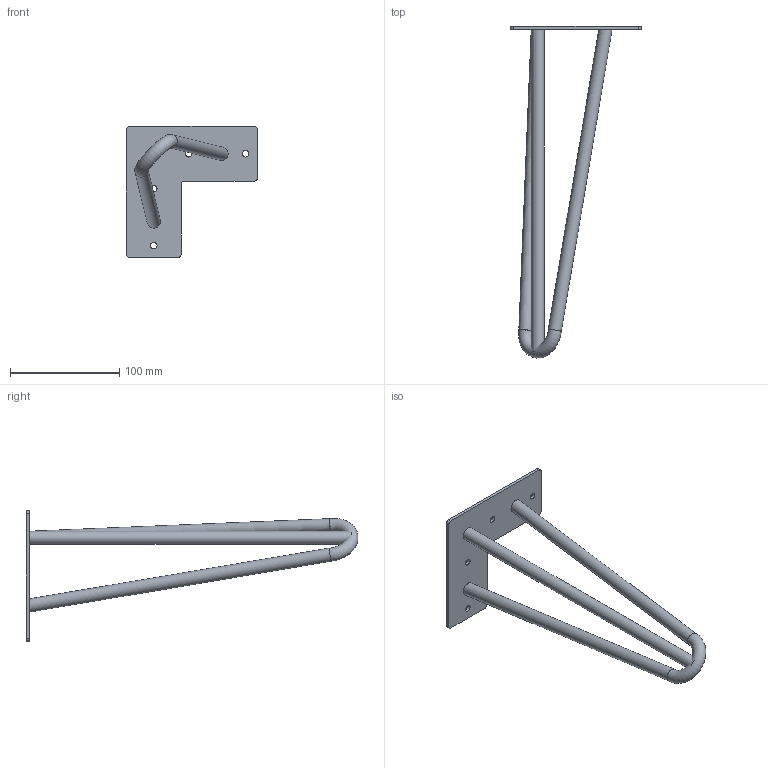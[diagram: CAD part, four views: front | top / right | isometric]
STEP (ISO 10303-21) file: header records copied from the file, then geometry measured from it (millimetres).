
FILE_DESCRIPTION(/* description */ (''),/* implementation_level */ '2;1');
FILE_NAME(/* name */ 'D:\$WorkingFolder\Designs\Meblowka\Nóżki meblowe\NM-ARTO\NM-ARTO-..-.R...-20M\NM-ARTO-12-3R304-20M.stp',/* time_stamp */ '2020-11-09T12:02:11+01:00',/* author */ ('ElizaL'),/* organization */ (''),/* preprocessor_version */ 'ST-DEVELOPER v18.1',/* originating_system */ 'Autodesk Inventor 2020',/* authorisation */ '');
FILE_SCHEMA (('AUTOMOTIVE_DESIGN { 1 0 10303 214 3 1 1 }'));
Length unit declared in the file: millimetre
Products named in the file (1): NM-ARTO-12-3R304-20M
Bounding box: 120 x 303.91 x 120 mm (x, y, z)
Volume: 131664.6 mm3; surface area: 55702.1 mm2
Topology: 3 solids, 3 shells, 36 faces, 93 edges, 66 vertices
Faces by surface type: cylinder 20, plane 15, torus 1
Full cylindrical faces by diameter (mm): 6 x4, 12 x8
Entity records: 1241 total; most frequent: CARTESIAN_POINT 244, DIRECTION 216, ORIENTED_EDGE 186, EDGE_CURVE 93, AXIS2_PLACEMENT_3D 90, VERTEX_POINT 66, EDGE_LOOP 47, CIRCLE 45
